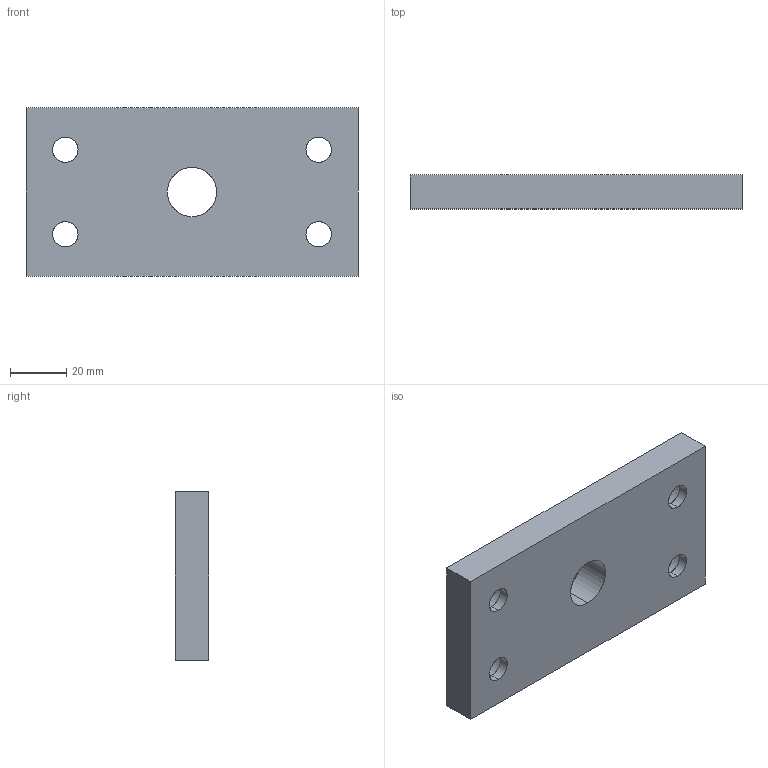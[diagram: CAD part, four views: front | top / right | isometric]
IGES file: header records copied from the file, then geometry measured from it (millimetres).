
Start section: SolidWorks IGES file using analytic representation for surfaces
Global section: file name: C:\Documents and Settings\Administrator\デスクトップ\指定保存後3回目\SolidWorks\SF\SF30\Parts\SFK-64A.IGS; native system: SolidWorks 2006 by SolidWorks Corporation; preprocessor: SolidWorks 2006 by SolidWorks Corporation; author: Administrator; date: 061213.110633; units: millimetre
Bounding box: 118 x 12 x 60 mm (x, y, z)
Surface area: 19999.2 mm2 (no closed solid volume)
Topology: 0 solids, 0 shells, 28 faces, 738 edges, 804 vertices
Faces by surface type: revolution 18, bspline 10
